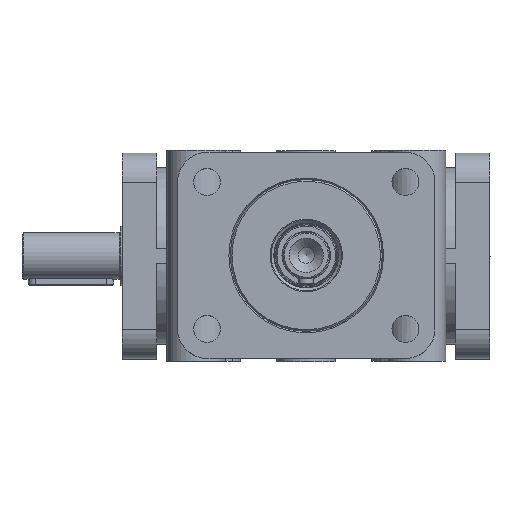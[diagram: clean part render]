
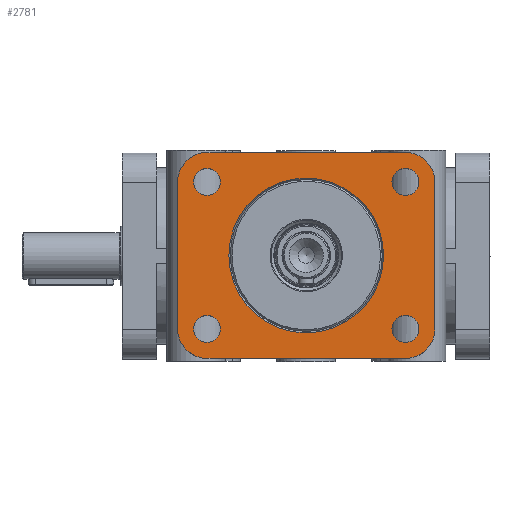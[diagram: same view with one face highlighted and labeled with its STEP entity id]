
A CAD part, top view. The second image highlights one B-rep face of the part: STEP entity #2781.
In plain terms, the highlighted planar face has unit normal (0, 0, 1).
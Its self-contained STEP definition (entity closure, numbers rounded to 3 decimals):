
#2555=CARTESIAN_POINT('',(46.0,30.0,0.0));
#2556=VERTEX_POINT('',#2555);
#2557=CARTESIAN_POINT('',(40.5,30.0,0.0));
#2558=DIRECTION('',(0.0,0.0,-1.0));
#2559=DIRECTION('',(1.0,0.0,0.0));
#2560=AXIS2_PLACEMENT_3D('',#2557,#2558,#2559);
#2561=CIRCLE('',#2560,5.5);
#2562=EDGE_CURVE('',#2556,#2556,#2561,.T.);
#2583=CARTESIAN_POINT('',(46.,-30.,0.0));
#2584=VERTEX_POINT('',#2583);
#2585=CARTESIAN_POINT('',(40.5,-30.,0.0));
#2586=DIRECTION('',(0.0,0.0,-1.0));
#2587=DIRECTION('',(1.0,0.0,0.0));
#2588=AXIS2_PLACEMENT_3D('',#2585,#2586,#2587);
#2589=CIRCLE('',#2588,5.5);
#2590=EDGE_CURVE('',#2584,#2584,#2589,.T.);
#2611=CARTESIAN_POINT('',(-35.0,-30.,0.0));
#2612=VERTEX_POINT('',#2611);
#2613=CARTESIAN_POINT('',(-40.5,-30.,0.0));
#2614=DIRECTION('',(0.0,0.0,-1.0));
#2615=DIRECTION('',(1.0,0.0,0.0));
#2616=AXIS2_PLACEMENT_3D('',#2613,#2614,#2615);
#2617=CIRCLE('',#2616,5.5);
#2618=EDGE_CURVE('',#2612,#2612,#2617,.T.);
#2639=CARTESIAN_POINT('',(-35.0,30.0,0.0));
#2640=VERTEX_POINT('',#2639);
#2641=CARTESIAN_POINT('',(-40.5,30.0,0.0));
#2642=DIRECTION('',(0.0,0.0,-1.0));
#2643=DIRECTION('',(1.0,0.0,0.0));
#2644=AXIS2_PLACEMENT_3D('',#2641,#2642,#2643);
#2645=CIRCLE('',#2644,5.5);
#2646=EDGE_CURVE('',#2640,#2640,#2645,.T.);
#2667=CARTESIAN_POINT('',(31.577,0.,0.0));
#2668=VERTEX_POINT('',#2667);
#2669=CARTESIAN_POINT('',(0.0,0.0,0.0));
#2670=DIRECTION('',(0.0,0.0,1.0));
#2671=DIRECTION('',(-1.0,0.0,0.0));
#2672=AXIS2_PLACEMENT_3D('',#2669,#2670,#2671);
#2673=CIRCLE('',#2672,31.577);
#2674=EDGE_CURVE('',#2668,#2668,#2673,.T.);
#2691=CARTESIAN_POINT('',(0.0,0.0,0.0));
#2692=DIRECTION('',(0.0,0.0,1.0));
#2693=DIRECTION('',(1.0,0.0,0.0));
#2694=AXIS2_PLACEMENT_3D('',#2691,#2692,#2693);
#2695=PLANE('',#2694);
#2696=CARTESIAN_POINT('',(-52.5,30.0,0.0));
#2697=VERTEX_POINT('',#2696);
#2698=CARTESIAN_POINT('',(-40.5,42.,0.0));
#2699=VERTEX_POINT('',#2698);
#2700=CARTESIAN_POINT('',(-40.5,30.0,0.0));
#2701=DIRECTION('',(0.0,0.0,-1.0));
#2702=DIRECTION('',(-0.707,0.707,0.0));
#2703=AXIS2_PLACEMENT_3D('',#2700,#2701,#2702);
#2704=CIRCLE('',#2703,12.);
#2705=EDGE_CURVE('',#2697,#2699,#2704,.T.);
#2706=ORIENTED_EDGE('',*,*,#2705,.F.);
#2707=CARTESIAN_POINT('',(-52.5,-30.,0.0));
#2708=VERTEX_POINT('',#2707);
#2709=CARTESIAN_POINT('',(-52.5,-30.,0.0));
#2710=DIRECTION('',(0.0,1.0,0.0));
#2711=VECTOR('',#2710,60.);
#2712=LINE('',#2709,#2711);
#2713=EDGE_CURVE('',#2708,#2697,#2712,.T.);
#2714=ORIENTED_EDGE('',*,*,#2713,.F.);
#2715=CARTESIAN_POINT('',(-40.5,-42.,0.0));
#2716=VERTEX_POINT('',#2715);
#2717=CARTESIAN_POINT('',(-40.5,-30.,0.0));
#2718=DIRECTION('',(0.0,0.0,-1.0));
#2719=DIRECTION('',(-0.707,-0.707,0.0));
#2720=AXIS2_PLACEMENT_3D('',#2717,#2718,#2719);
#2721=CIRCLE('',#2720,12.);
#2722=EDGE_CURVE('',#2716,#2708,#2721,.T.);
#2723=ORIENTED_EDGE('',*,*,#2722,.F.);
#2724=CARTESIAN_POINT('',(40.5,-42.,0.0));
#2725=VERTEX_POINT('',#2724);
#2726=CARTESIAN_POINT('',(40.5,-42.,0.0));
#2727=DIRECTION('',(-1.0,0.0,0.0));
#2728=VECTOR('',#2727,81.0);
#2729=LINE('',#2726,#2728);
#2730=EDGE_CURVE('',#2725,#2716,#2729,.T.);
#2731=ORIENTED_EDGE('',*,*,#2730,.F.);
#2732=CARTESIAN_POINT('',(52.5,-30.,0.0));
#2733=VERTEX_POINT('',#2732);
#2734=CARTESIAN_POINT('',(40.5,-30.,0.0));
#2735=DIRECTION('',(0.0,0.0,-1.0));
#2736=DIRECTION('',(0.707,-0.707,0.0));
#2737=AXIS2_PLACEMENT_3D('',#2734,#2735,#2736);
#2738=CIRCLE('',#2737,12.0);
#2739=EDGE_CURVE('',#2733,#2725,#2738,.T.);
#2740=ORIENTED_EDGE('',*,*,#2739,.F.);
#2741=CARTESIAN_POINT('',(52.5,30.0,0.0));
#2742=VERTEX_POINT('',#2741);
#2743=CARTESIAN_POINT('',(52.5,30.,0.0));
#2744=DIRECTION('',(0.0,-1.0,0.0));
#2745=VECTOR('',#2744,60.0);
#2746=LINE('',#2743,#2745);
#2747=EDGE_CURVE('',#2742,#2733,#2746,.T.);
#2748=ORIENTED_EDGE('',*,*,#2747,.F.);
#2749=CARTESIAN_POINT('',(40.5,42.,0.0));
#2750=VERTEX_POINT('',#2749);
#2751=CARTESIAN_POINT('',(40.5,30.0,0.0));
#2752=DIRECTION('',(0.0,0.0,-1.0));
#2753=DIRECTION('',(0.707,0.707,0.0));
#2754=AXIS2_PLACEMENT_3D('',#2751,#2752,#2753);
#2755=CIRCLE('',#2754,12.);
#2756=EDGE_CURVE('',#2750,#2742,#2755,.T.);
#2757=ORIENTED_EDGE('',*,*,#2756,.F.);
#2758=CARTESIAN_POINT('',(-40.5,42.,0.0));
#2759=DIRECTION('',(1.0,0.0,0.0));
#2760=VECTOR('',#2759,81.0);
#2761=LINE('',#2758,#2760);
#2762=EDGE_CURVE('',#2699,#2750,#2761,.T.);
#2763=ORIENTED_EDGE('',*,*,#2762,.F.);
#2764=EDGE_LOOP('',(#2706,#2714,#2723,#2731,#2740,#2748,#2757,#2763));
#2765=FACE_OUTER_BOUND('',#2764,.T.);
#2766=ORIENTED_EDGE('',*,*,#2562,.T.);
#2767=EDGE_LOOP('',(#2766));
#2768=FACE_BOUND('',#2767,.T.);
#2769=ORIENTED_EDGE('',*,*,#2590,.T.);
#2770=EDGE_LOOP('',(#2769));
#2771=FACE_BOUND('',#2770,.T.);
#2772=ORIENTED_EDGE('',*,*,#2618,.T.);
#2773=EDGE_LOOP('',(#2772));
#2774=FACE_BOUND('',#2773,.T.);
#2775=ORIENTED_EDGE('',*,*,#2646,.T.);
#2776=EDGE_LOOP('',(#2775));
#2777=FACE_BOUND('',#2776,.T.);
#2778=ORIENTED_EDGE('',*,*,#2674,.F.);
#2779=EDGE_LOOP('',(#2778));
#2780=FACE_BOUND('',#2779,.T.);
#2781=ADVANCED_FACE('',(#2765,#2768,#2771,#2774,#2777,#2780),#2695,.T.);
